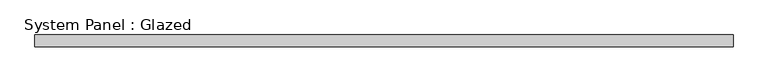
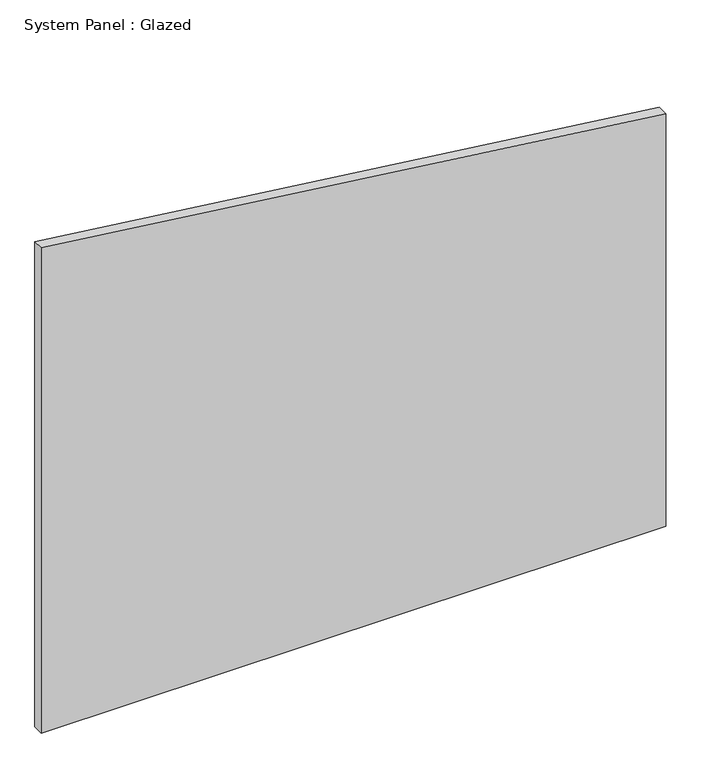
"""IFC4 building model written with IfcOpenShell, lengths in millimetres: plate geometry, System Panel : Glazed."""

from ifc_helpers import new_model, si_unit, frame, origin, place, context, project, spatial, polyline, outline, extrude, source, transform, mapped, element, save


def system_panel_glazed_9d7c6a2b(model_context):
    return source(origin(), model_context, "Body", "SweptSolid", [
        extrude(outline(polyline([(0.0, -726.9631579), (0.0, 726.9631579), (1015.6417519, 726.9631579), (1194.1614562, -726.9631579), (0.0, -726.9631579)])), frame((0.0, 24.5, 0.0), z_axis=(0.0, 1.0, 0.0), x_axis=(0.0, 0.0, 1.0)), (0.0, 0.0, 1.0), 25.0),
    ])


if __name__ == "__main__":
    model = new_model("IFC4")
    model_context = context("Model", 3, world=origin())
    ifc_project = project(units=[si_unit("LENGTHUNIT", "METRE", prefix="MILLI")], contexts=[model_context])
    site = spatial("IfcSite", under=ifc_project)
    building = spatial("IfcBuilding", under=site)
    placement = place(None, origin())
    system_panel_glazed_shape = system_panel_glazed_9d7c6a2b(model_context)
    element("IfcPlate", 1, ObjectType="System Panel : Glazed", at=placement, inside=building, context=model_context, shape_type="MappedRepresentation", body=[
        mapped(system_panel_glazed_shape, transform((0.0, 0.0, 0.0), x_axis=(1.0, 0.0, 0.0), y_axis=(0.0, 1.0, 0.0), z_axis=(0.0, 0.0, 1.0))),
    ])
    save(model, "model.ifc")
